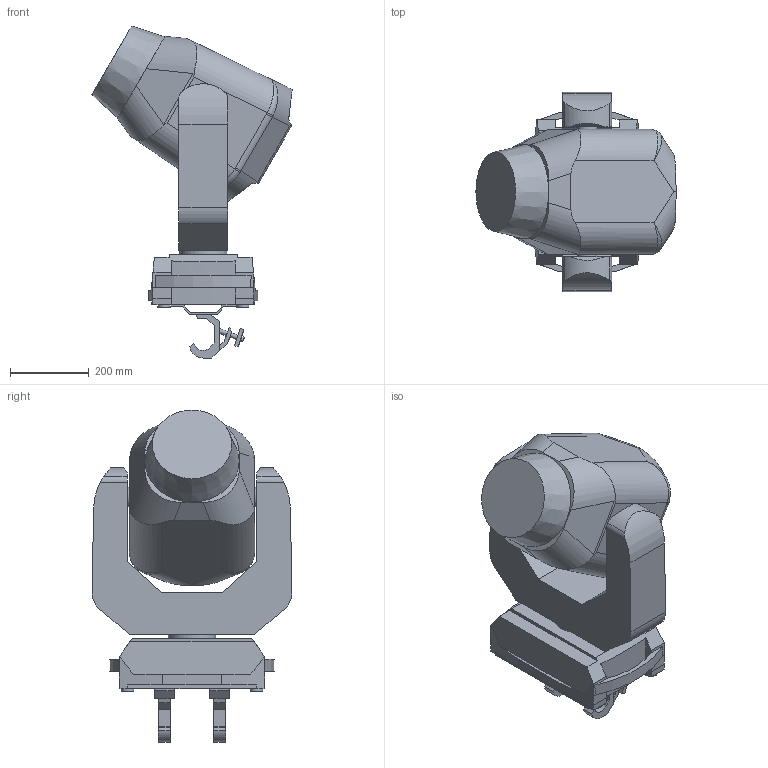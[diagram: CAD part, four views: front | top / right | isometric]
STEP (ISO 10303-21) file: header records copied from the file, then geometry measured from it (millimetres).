
FILE_DESCRIPTION(/* description */ ('Unknown'),/* implementation_level */ '2;1');
FILE_NAME(/* name */ '3D-iPointe',/* time_stamp */ '2019-02-14T15:56:42+01:00',/* author */ ('Ing.Rostislav HĂˇba'),/* organization */ ('ROBE lighting'),/* preprocessor_version */ 'ST-DEVELOPER v16.7',/* originating_system */ 'DEX',/* authorisation */ $);
FILE_SCHEMA (('AUTOMOTIVE_DESIGN {1 0 10303 214 3 1 1}'));
Length unit declared in the file: millimetre
Products named in the file (7): 3D-iPointe; Base iPointe; Arm iPointe; Head iPointe; Omega_SlimClamp_00; Omega+SlimClamp; Clamp Doughty Slimline QT
Assembly tree (7 placements, depth 3):
  3D-iPointe
    Base iPointe
    Arm iPointe
    Head iPointe
    Omega_SlimClamp_00  x2
      Omega+SlimClamp
      Clamp Doughty Slimline QT
Bounding box: 507.73 x 506.67 x 842.11 mm (x, y, z)
Volume: 60021424.7 mm3; surface area: 1555705.9 mm2
Topology: 7 solids, 7 shells, 243 faces, 647 edges, 430 vertices
Faces by surface type: plane 164, cylinder 70, bspline 8, cone 1
Full cylindrical faces by diameter (mm): 11 x4, 12 x12, 13 x2, 22 x1, 31.841 x4, 49.57 x2, 74 x1, 95 x1, 120.126 x1
Entity records: 6201 total; most frequent: CARTESIAN_POINT 1305, DIRECTION 990, ORIENTED_EDGE 948, EDGE_CURVE 474, AXIS2_PLACEMENT_3D 345, VERTEX_POINT 326, LINE 300, VECTOR 300
